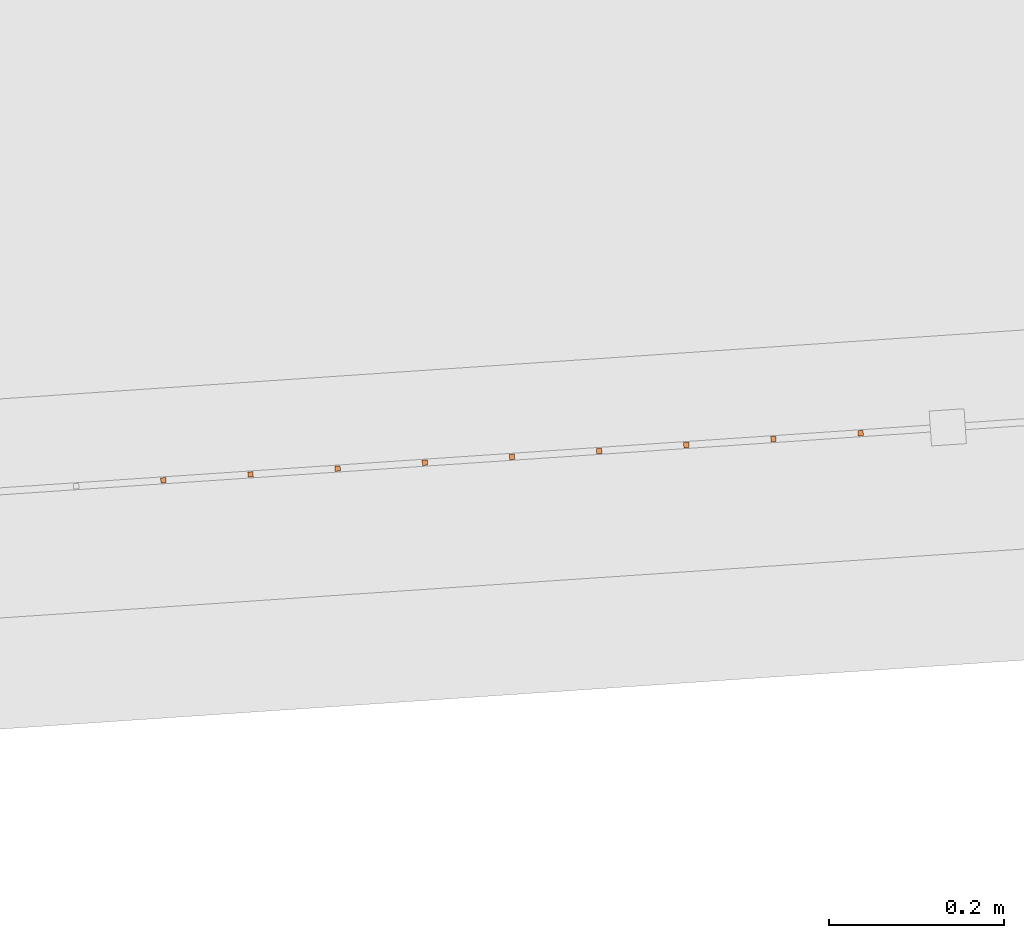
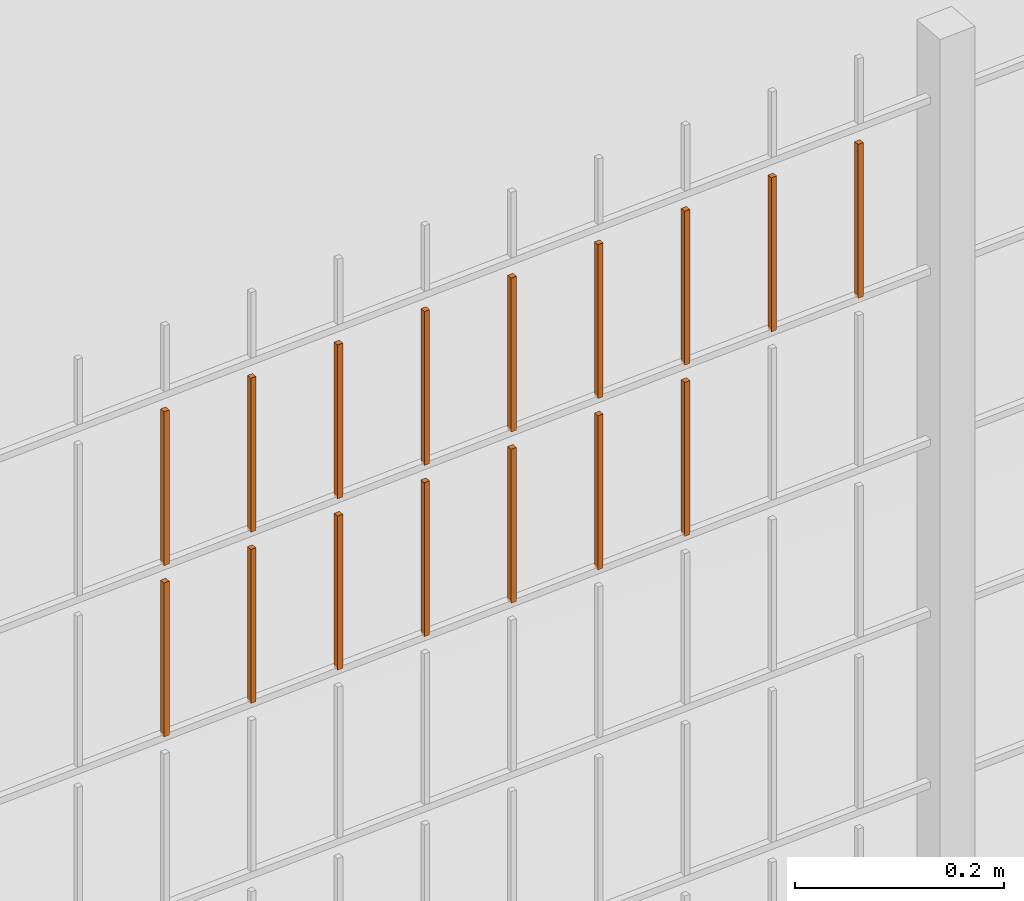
# One storey, part 336 of 1809: 16 proxies, 1 element without a shape of its own.
"""IFC2X3 building model written with IfcOpenShell, lengths in millimetres."""

from ifc_helpers import new_model, entity, si_unit, converted_unit, derived_unit, money_unit, direction, frame, origin_with_axes, place, context, subcontext, project, spatial, faceted_brep, source, transform, mapped, material, type_object, element, aggregate, save


model = new_model("IFC2X3")

# Units and contexts
model_context = context("Model", 3, precision=0.01, world=origin_with_axes(), true_north=direction((0.0, 1.0)))
body_context = subcontext(model_context, "Body", "Model", "MODEL_VIEW")
ifc_project = project(units=[si_unit("LENGTHUNIT", "METRE", prefix="MILLI"), si_unit("AREAUNIT", "SQUARE_METRE"), si_unit("VOLUMEUNIT", "CUBIC_METRE"), converted_unit("PLANEANGLEUNIT", "DEGREE", entity("IfcPlaneAngleMeasure", 0.0174532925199), si_unit("PLANEANGLEUNIT", "RADIAN"), dimensions=[0, 0, 0, 0, 0, 0, 0]), si_unit("SOLIDANGLEUNIT", "STERADIAN"), money_unit("EUR"), converted_unit("TIMEUNIT", "Year", entity("IfcTimeMeasure", 31556926.0), si_unit("TIMEUNIT", "SECOND"), dimensions=[0, 0, 1, 0, 0, 0, 0]), si_unit("MASSUNIT", "GRAM", prefix="KILO"), si_unit("THERMODYNAMICTEMPERATUREUNIT", "DEGREE_CELSIUS"), si_unit("LUMINOUSINTENSITYUNIT", "LUMEN"), si_unit("ENERGYUNIT", "JOULE", prefix="MEGA"), derived_unit("THERMALCONDUCTANCEUNIT", [(si_unit("POWERUNIT", "WATT"), 1), (si_unit("LENGTHUNIT", "METRE"), -1), (si_unit("THERMODYNAMICTEMPERATUREUNIT", "KELVIN"), -1)]), derived_unit("SPECIFICHEATCAPACITYUNIT", [(si_unit("ENERGYUNIT", "JOULE"), 1), (si_unit("MASSUNIT", "GRAM", prefix="KILO"), -1), (si_unit("THERMODYNAMICTEMPERATUREUNIT", "KELVIN"), -1)]), derived_unit("MASSDENSITYUNIT", [(si_unit("MASSUNIT", "GRAM", prefix="KILO"), 1), (si_unit("VOLUMEUNIT", "CUBIC_METRE"), -1)])], contexts=[model_context])

# Site, building, storey
site_placement = place(None, origin_with_axes())
site = spatial("IfcSite", under=ifc_project, at=site_placement, Name="Politse- ja Piirivalveameti ning Päästeameti ühishoone", CompositionType="ELEMENT")
building_placement = place(site_placement, origin_with_axes())
building = spatial("IfcBuilding", under=site, at=building_placement, Name="Politse- ja Piirivalveameti ning Päästeameti ühishoone", CompositionType="ELEMENT")
storey_placement = place(building_placement, origin_with_axes())
storey = spatial("IfcBuildingStorey", under=building, at=storey_placement, Name="Esimene korrus", CompositionType="ELEMENT", Elevation=0.0)

# Proxies
building_element_proxy_type_1 = type_object("IfcBuildingElementProxyType", Name="Railing Type", PredefinedType="NOTDEFINED")
proxy_1_placement = place(storey_placement, frame((89252.001212, -29183.4766571, 203.661247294), z_axis=(0.0, 0.0, 1.0), x_axis=(1.0, 0.0, 0.0)))
proxy_1 = element("IfcBuildingElementProxy", 1, at=proxy_1_placement, inside=storey, type_object=building_element_proxy_type_1, Name="PIIRDEAED")
ifc_material = material(Name="ET-03_Raud")
building_element_proxy_type_2 = type_object("IfcBuildingElementProxyType", Name="IfcBuildingElementProxy", PredefinedType="NOTDEFINED")
shared_shape_1 = source(origin_with_axes(), body_context, "Body", "Brep", [
    faceted_brep([(3.0, 3.0, -0.000752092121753), (-3.0, 3.0, -0.000752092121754), (-3.0, 3.0, 179.99926046), (3.0, 3.0, 179.99926046), (3.0, -3.0, 0.000752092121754), (-3.0, -3.0, 0.000752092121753), (-3.0, -3.0, 180.000764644), (3.0, -3.0, 180.000764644)], [[[0, 1, 2, 3]], [[0, 4, 5, 1]], [[1, 5, 6, 2]], [[3, 2, 6, 7]], [[4, 0, 3, 7]], [[5, 4, 7, 6]]]),
])
proxy_2_placement = place(proxy_1_placement, frame((-32652.2848338, -19503.3133769, 1619.02989078), z_axis=(0.0, 0.0, 1.0), x_axis=(1.0, 0.0, 0.0)))
proxy_2 = element("IfcBuildingElementProxy", 2, at=proxy_2_placement, type_object=building_element_proxy_type_2, material=ifc_material, Name="BALUSTER - 001", context=body_context, shape_type="MappedRepresentation", body=[
    mapped(shared_shape_1, transform((0.0, 0.0, 0.0), x_axis=(-0.0673926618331, 0.997726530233, 0.0), y_axis=(-0.997726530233, -0.0673926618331, 0.0), z_axis=(0.0, 0.0, 1.0))),
])
shared_shape_2 = source(origin_with_axes(), body_context, "Body", "Brep", [
    faceted_brep([(3.0, 3.0, -0.000752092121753), (-3.0, 3.0, -0.000752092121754), (-3.0, 3.0, 179.99926046), (3.0, 3.0, 179.99926046), (3.0, -3.0, 0.000752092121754), (-3.0, -3.0, 0.000752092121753), (-3.0, -3.0, 180.000764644), (3.0, -3.0, 180.000764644)], [[[0, 1, 2, 3]], [[0, 4, 5, 1]], [[1, 5, 6, 2]], [[3, 2, 6, 7]], [[4, 0, 3, 7]], [[5, 4, 7, 6]]]),
])
proxy_3_placement = place(proxy_1_placement, frame((-32652.2848338, -19503.3133769, 1819.02989078), z_axis=(0.0, 0.0, 1.0), x_axis=(1.0, 0.0, 0.0)))
proxy_3 = element("IfcBuildingElementProxy", 3, at=proxy_3_placement, type_object=building_element_proxy_type_2, material=ifc_material, Name="BALUSTER - 001", context=body_context, shape_type="MappedRepresentation", body=[
    mapped(shared_shape_2, transform((0.0, 0.0, 0.0), x_axis=(-0.0673926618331, 0.997726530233, 0.0), y_axis=(-0.997726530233, -0.0673926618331, 0.0), z_axis=(0.0, 0.0, 1.0))),
])
shared_shape_3 = source(origin_with_axes(), body_context, "Body", "Brep", [
    faceted_brep([(3.0, 3.0, -0.000752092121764), (-3.0, 3.0, -0.000752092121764), (-3.0, 3.0, 179.99926046), (3.0, 3.0, 179.99926046), (3.0, -3.0, 0.000752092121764), (-3.0, -3.0, 0.000752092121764), (-3.0, -3.0, 180.000764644), (3.0, -3.0, 180.000764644)], [[[0, 1, 2, 3]], [[0, 4, 5, 1]], [[1, 5, 6, 2]], [[3, 2, 6, 7]], [[4, 0, 3, 7]], [[5, 4, 7, 6]]]),
])
proxy_4_placement = place(proxy_1_placement, frame((-33051.3754459, -19530.2704416, 1618.92961183), z_axis=(0.0, 0.0, 1.0), x_axis=(1.0, 0.0, 0.0)))
proxy_4 = element("IfcBuildingElementProxy", 4, at=proxy_4_placement, type_object=building_element_proxy_type_2, material=ifc_material, Name="BALUSTER - 001", context=body_context, shape_type="MappedRepresentation", body=[
    mapped(shared_shape_3, transform((0.0, 0.0, 0.0), x_axis=(-0.0673926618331, 0.997726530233, 0.0), y_axis=(-0.997726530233, -0.0673926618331, 0.0), z_axis=(0.0, 0.0, 1.0))),
])
shared_shape_4 = source(origin_with_axes(), body_context, "Body", "Brep", [
    faceted_brep([(3.0, 3.0, -0.000752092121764), (-3.0, 3.0, -0.000752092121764), (-3.0, 3.0, 179.99926046), (3.0, 3.0, 179.99926046), (3.0, -3.0, 0.000752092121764), (-3.0, -3.0, 0.000752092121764), (-3.0, -3.0, 180.000764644), (3.0, -3.0, 180.000764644)], [[[0, 1, 2, 3]], [[0, 4, 5, 1]], [[1, 5, 6, 2]], [[3, 2, 6, 7]], [[4, 0, 3, 7]], [[5, 4, 7, 6]]]),
])
proxy_5_placement = place(proxy_1_placement, frame((-33051.3754459, -19530.2704416, 1818.92961183), z_axis=(0.0, 0.0, 1.0), x_axis=(1.0, 0.0, 0.0)))
proxy_5 = element("IfcBuildingElementProxy", 5, at=proxy_5_placement, type_object=building_element_proxy_type_2, material=ifc_material, Name="BALUSTER - 001", context=body_context, shape_type="MappedRepresentation", body=[
    mapped(shared_shape_4, transform((0.0, 0.0, 0.0), x_axis=(-0.0673926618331, 0.997726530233, 0.0), y_axis=(-0.997726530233, -0.0673926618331, 0.0), z_axis=(0.0, 0.0, 1.0))),
])
shared_shape_5 = source(origin_with_axes(), body_context, "Body", "Brep", [
    faceted_brep([(3.0, 3.0, -0.000752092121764), (-3.0, 3.0, -0.000752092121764), (-3.0, 3.0, 179.99926046), (3.0, 3.0, 179.99926046), (3.0, -3.0, 0.000752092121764), (-3.0, -3.0, 0.000752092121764), (-3.0, -3.0, 180.000764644), (3.0, -3.0, 180.000764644)], [[[0, 1, 2, 3]], [[0, 4, 5, 1]], [[1, 5, 6, 2]], [[3, 2, 6, 7]], [[4, 0, 3, 7]], [[5, 4, 7, 6]]]),
])
proxy_6_placement = place(proxy_1_placement, frame((-32552.5121808, -19496.5741107, 1819.05496052), z_axis=(0.0, 0.0, 1.0), x_axis=(1.0, 0.0, 0.0)))
proxy_6 = element("IfcBuildingElementProxy", 6, at=proxy_6_placement, type_object=building_element_proxy_type_2, material=ifc_material, Name="BALUSTER - 001", context=body_context, shape_type="MappedRepresentation", body=[
    mapped(shared_shape_5, transform((0.0, 0.0, 0.0), x_axis=(-0.0673926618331, 0.997726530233, 0.0), y_axis=(-0.997726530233, -0.0673926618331, 0.0), z_axis=(0.0, 0.0, 1.0))),
])
proxy_7_placement = place(proxy_1_placement, frame((-33151.1480989, -19537.0097078, 1818.90454209), z_axis=(0.0, 0.0, 1.0), x_axis=(1.0, 0.0, 0.0)))
proxy_7 = element("IfcBuildingElementProxy", 7, at=proxy_7_placement, type_object=building_element_proxy_type_2, material=ifc_material, Name="BALUSTER - 001", context=body_context, shape_type="MappedRepresentation", body=[
    mapped(shared_shape_5, transform((0.0, 0.0, 0.0), x_axis=(-0.0673926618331, 0.997726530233, 0.0), y_axis=(-0.997726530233, -0.0673926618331, 0.0), z_axis=(0.0, 0.0, 1.0))),
])
shared_shape_6 = source(origin_with_axes(), body_context, "Body", "Brep", [
    faceted_brep([(3.0, 3.0, -0.000752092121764), (-3.0, 3.0, -0.000752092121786), (-3.0, 3.0, 179.99926046), (3.0, 3.0, 179.99926046), (3.0, -3.0, 0.000752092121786), (-3.0, -3.0, 0.000752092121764), (-3.0, -3.0, 180.000764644), (3.0, -3.0, 180.000764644)], [[[0, 1, 2, 3]], [[0, 4, 5, 1]], [[1, 5, 6, 2]], [[3, 2, 6, 7]], [[4, 0, 3, 7]], [[5, 4, 7, 6]]]),
])
proxy_8_placement = place(proxy_1_placement, frame((-32951.6027929, -19523.5311754, 1818.95468157), z_axis=(0.0, 0.0, 1.0), x_axis=(1.0, 0.0, 0.0)))
proxy_8 = element("IfcBuildingElementProxy", 8, at=proxy_8_placement, type_object=building_element_proxy_type_2, material=ifc_material, Name="BALUSTER - 001", context=body_context, shape_type="MappedRepresentation", body=[
    mapped(shared_shape_6, transform((0.0, 0.0, 0.0), x_axis=(-0.0673926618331, 0.997726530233, 0.0), y_axis=(-0.997726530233, -0.0673926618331, 0.0), z_axis=(0.0, 0.0, 1.0))),
])
shared_shape_7 = source(origin_with_axes(), body_context, "Body", "Brep", [
    faceted_brep([(3.0, 3.0, -0.000752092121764), (-3.0, 3.0, -0.000752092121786), (-3.0, 3.0, 179.99926046), (3.0, 3.0, 179.99926046), (3.0, -3.0, 0.000752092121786), (-3.0, -3.0, 0.000752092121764), (-3.0, -3.0, 180.000764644), (3.0, -3.0, 180.000764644)], [[[0, 1, 2, 3]], [[0, 4, 5, 1]], [[1, 5, 6, 2]], [[3, 2, 6, 7]], [[4, 0, 3, 7]], [[5, 4, 7, 6]]]),
])
proxy_9_placement = place(proxy_1_placement, frame((-32951.6027929, -19523.5311754, 1618.95468157), z_axis=(0.0, 0.0, 1.0), x_axis=(1.0, 0.0, 0.0)))
proxy_9 = element("IfcBuildingElementProxy", 9, at=proxy_9_placement, type_object=building_element_proxy_type_2, material=ifc_material, Name="BALUSTER - 001", context=body_context, shape_type="MappedRepresentation", body=[
    mapped(shared_shape_7, transform((0.0, 0.0, 0.0), x_axis=(-0.0673926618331, 0.997726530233, 0.0), y_axis=(-0.997726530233, -0.0673926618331, 0.0), z_axis=(0.0, 0.0, 1.0))),
])
shared_shape_8 = source(origin_with_axes(), body_context, "Body", "Brep", [
    faceted_brep([(3.0, 3.0, -0.000752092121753), (-3.0, 3.0, -0.000752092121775), (-3.0, 3.0, 179.99926046), (3.0, 3.0, 179.99926046), (3.0, -3.0, 0.000752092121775), (-3.0, -3.0, 0.000752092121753), (-3.0, -3.0, 180.000764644), (3.0, -3.0, 180.000764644)], [[[0, 1, 2, 3]], [[0, 4, 5, 1]], [[1, 5, 6, 2]], [[3, 2, 6, 7]], [[4, 0, 3, 7]], [[5, 4, 7, 6]]]),
])
proxy_10_placement = place(proxy_1_placement, frame((-32752.0574868, -19510.052643, 1819.00482104), z_axis=(0.0, 0.0, 1.0), x_axis=(1.0, 0.0, 0.0)))
proxy_10 = element("IfcBuildingElementProxy", 10, at=proxy_10_placement, type_object=building_element_proxy_type_2, material=ifc_material, Name="BALUSTER - 001", context=body_context, shape_type="MappedRepresentation", body=[
    mapped(shared_shape_8, transform((0.0, 0.0, 0.0), x_axis=(-0.0673926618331, 0.997726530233, 0.0), y_axis=(-0.997726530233, -0.0673926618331, 0.0), z_axis=(0.0, 0.0, 1.0))),
])
shared_shape_9 = source(origin_with_axes(), body_context, "Body", "Brep", [
    faceted_brep([(3.0, 3.0, -0.000752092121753), (-3.0, 3.0, -0.000752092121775), (-3.0, 3.0, 179.99926046), (3.0, 3.0, 179.99926046), (3.0, -3.0, 0.000752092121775), (-3.0, -3.0, 0.000752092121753), (-3.0, -3.0, 180.000764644), (3.0, -3.0, 180.000764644)], [[[0, 1, 2, 3]], [[0, 4, 5, 1]], [[1, 5, 6, 2]], [[3, 2, 6, 7]], [[4, 0, 3, 7]], [[5, 4, 7, 6]]]),
])
proxy_11_placement = place(proxy_1_placement, frame((-32851.8301399, -19516.7919092, 1618.9797513), z_axis=(0.0, 0.0, 1.0), x_axis=(1.0, 0.0, 0.0)))
proxy_11 = element("IfcBuildingElementProxy", 11, at=proxy_11_placement, type_object=building_element_proxy_type_2, material=ifc_material, Name="BALUSTER - 001", context=body_context, shape_type="MappedRepresentation", body=[
    mapped(shared_shape_9, transform((0.0, 0.0, 0.0), x_axis=(-0.0673926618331, 0.997726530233, 0.0), y_axis=(-0.997726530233, -0.0673926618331, 0.0), z_axis=(0.0, 0.0, 1.0))),
])
shared_shape_10 = source(origin_with_axes(), body_context, "Body", "Brep", [
    faceted_brep([(3.0, 3.0, -0.000752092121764), (-3.0, 3.0, -0.000752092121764), (-3.0, 3.0, 179.99926046), (3.0, 3.0, 179.99926046), (3.0, -3.0, 0.000752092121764), (-3.0, -3.0, 0.000752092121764), (-3.0, -3.0, 180.000764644), (3.0, -3.0, 180.000764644)], [[[0, 1, 2, 3]], [[0, 4, 5, 1]], [[1, 5, 6, 2]], [[3, 2, 6, 7]], [[4, 0, 3, 7]], [[5, 4, 7, 6]]]),
])
proxy_12_placement = place(proxy_1_placement, frame((-33151.1480989, -19537.0097078, 1618.90454209), z_axis=(0.0, 0.0, 1.0), x_axis=(1.0, 0.0, 0.0)))
proxy_12 = element("IfcBuildingElementProxy", 12, at=proxy_12_placement, type_object=building_element_proxy_type_2, material=ifc_material, Name="BALUSTER - 001", context=body_context, shape_type="MappedRepresentation", body=[
    mapped(shared_shape_10, transform((0.0, 0.0, 0.0), x_axis=(-0.0673926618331, 0.997726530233, 0.0), y_axis=(-0.997726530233, -0.0673926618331, 0.0), z_axis=(0.0, 0.0, 1.0))),
])
shared_shape_11 = source(origin_with_axes(), body_context, "Body", "Brep", [
    faceted_brep([(3.0, 3.0, -0.000752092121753), (-3.0, 3.0, -0.000752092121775), (-3.0, 3.0, 179.99926046), (3.0, 3.0, 179.99926046), (3.0, -3.0, 0.000752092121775), (-3.0, -3.0, 0.000752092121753), (-3.0, -3.0, 180.000764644), (3.0, -3.0, 180.000764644)], [[[0, 1, 2, 3]], [[0, 4, 5, 1]], [[1, 5, 6, 2]], [[3, 2, 6, 7]], [[4, 0, 3, 7]], [[5, 4, 7, 6]]]),
])
proxy_13_placement = place(proxy_1_placement, frame((-32752.0574868, -19510.052643, 1619.00482104), z_axis=(0.0, 0.0, 1.0), x_axis=(1.0, 0.0, 0.0)))
proxy_13 = element("IfcBuildingElementProxy", 13, at=proxy_13_placement, type_object=building_element_proxy_type_2, material=ifc_material, Name="BALUSTER - 001", context=body_context, shape_type="MappedRepresentation", body=[
    mapped(shared_shape_11, transform((0.0, 0.0, 0.0), x_axis=(-0.0673926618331, 0.997726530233, 0.0), y_axis=(-0.997726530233, -0.0673926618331, 0.0), z_axis=(0.0, 0.0, 1.0))),
])
shared_shape_12 = source(origin_with_axes(), body_context, "Body", "Brep", [
    faceted_brep([(3.0, 3.0, -0.000752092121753), (-3.0, 3.0, -0.000752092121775), (-3.0, 3.0, 179.99926046), (3.0, 3.0, 179.99926046), (3.0, -3.0, 0.000752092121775), (-3.0, -3.0, 0.000752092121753), (-3.0, -3.0, 180.000764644), (3.0, -3.0, 180.000764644)], [[[0, 1, 2, 3]], [[0, 4, 5, 1]], [[1, 5, 6, 2]], [[3, 2, 6, 7]], [[4, 0, 3, 7]], [[5, 4, 7, 6]]]),
])
proxy_14_placement = place(proxy_1_placement, frame((-32851.8301399, -19516.7919092, 1818.9797513), z_axis=(0.0, 0.0, 1.0), x_axis=(1.0, 0.0, 0.0)))
proxy_14 = element("IfcBuildingElementProxy", 14, at=proxy_14_placement, type_object=building_element_proxy_type_2, material=ifc_material, Name="BALUSTER - 001", context=body_context, shape_type="MappedRepresentation", body=[
    mapped(shared_shape_12, transform((0.0, 0.0, 0.0), x_axis=(-0.0673926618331, 0.997726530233, 0.0), y_axis=(-0.997726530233, -0.0673926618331, 0.0), z_axis=(0.0, 0.0, 1.0))),
])
shared_shape_13 = source(origin_with_axes(), body_context, "Body", "Brep", [
    faceted_brep([(3.0, 3.0, -0.000752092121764), (-3.0, 3.0, -0.000752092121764), (-3.0, 3.0, 179.99926046), (3.0, 3.0, 179.99926046), (3.0, -3.0, 0.000752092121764), (-3.0, -3.0, 0.000752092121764), (-3.0, -3.0, 180.000764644), (3.0, -3.0, 180.000764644)], [[[0, 1, 2, 3]], [[0, 4, 5, 1]], [[1, 5, 6, 2]], [[3, 2, 6, 7]], [[4, 0, 3, 7]], [[5, 4, 7, 6]]]),
])
proxy_15_placement = place(proxy_1_placement, frame((-32352.9668747, -19483.0955783, 1819.10509999), z_axis=(0.0, 0.0, 1.0), x_axis=(1.0, 0.0, 0.0)))
proxy_15 = element("IfcBuildingElementProxy", 15, at=proxy_15_placement, type_object=building_element_proxy_type_2, material=ifc_material, Name="BALUSTER - 001", context=body_context, shape_type="MappedRepresentation", body=[
    mapped(shared_shape_13, transform((0.0, 0.0, 0.0), x_axis=(-0.0673926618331, 0.997726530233, 0.0), y_axis=(-0.997726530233, -0.0673926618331, 0.0), z_axis=(0.0, 0.0, 1.0))),
])
shared_shape_14 = source(origin_with_axes(), body_context, "Body", "Brep", [
    faceted_brep([(3.0, 3.0, -0.000752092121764), (-3.0, 3.0, -0.000752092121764), (-3.0, 3.0, 179.99926046), (3.0, 3.0, 179.99926046), (3.0, -3.0, 0.000752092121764), (-3.0, -3.0, 0.000752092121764), (-3.0, -3.0, 180.000764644), (3.0, -3.0, 180.000764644)], [[[0, 1, 2, 3]], [[0, 4, 5, 1]], [[1, 5, 6, 2]], [[3, 2, 6, 7]], [[4, 0, 3, 7]], [[5, 4, 7, 6]]]),
])
proxy_16_placement = place(proxy_1_placement, frame((-32552.5121808, -19496.5741107, 1619.05496052), z_axis=(0.0, 0.0, 1.0), x_axis=(1.0, 0.0, 0.0)))
proxy_16 = element("IfcBuildingElementProxy", 16, at=proxy_16_placement, type_object=building_element_proxy_type_2, material=ifc_material, Name="BALUSTER - 001", context=body_context, shape_type="MappedRepresentation", body=[
    mapped(shared_shape_14, transform((0.0, 0.0, 0.0), x_axis=(-0.0673926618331, 0.997726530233, 0.0), y_axis=(-0.997726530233, -0.0673926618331, 0.0), z_axis=(0.0, 0.0, 1.0))),
])
shared_shape_15 = source(origin_with_axes(), body_context, "Body", "Brep", [
    faceted_brep([(3.0, 3.0, -0.000752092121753), (-3.0, 3.0, -0.000752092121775), (-3.0, 3.0, 179.99926046), (3.0, 3.0, 179.99926046), (3.0, -3.0, 0.000752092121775), (-3.0, -3.0, 0.000752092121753), (-3.0, -3.0, 180.000764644), (3.0, -3.0, 180.000764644)], [[[0, 1, 2, 3]], [[0, 4, 5, 1]], [[1, 5, 6, 2]], [[3, 2, 6, 7]], [[4, 0, 3, 7]], [[5, 4, 7, 6]]]),
])
proxy_17_placement = place(proxy_1_placement, frame((-32452.7395278, -19489.8348445, 1819.08003025), z_axis=(0.0, 0.0, 1.0), x_axis=(1.0, 0.0, 0.0)))
proxy_17 = element("IfcBuildingElementProxy", 17, at=proxy_17_placement, type_object=building_element_proxy_type_2, material=ifc_material, Name="BALUSTER - 001", context=body_context, shape_type="MappedRepresentation", body=[
    mapped(shared_shape_15, transform((0.0, 0.0, 0.0), x_axis=(-0.0673926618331, 0.997726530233, 0.0), y_axis=(-0.997726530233, -0.0673926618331, 0.0), z_axis=(0.0, 0.0, 1.0))),
])
aggregate(proxy_1, [proxy_16, proxy_2, proxy_13, proxy_11, proxy_9, proxy_4, proxy_12, proxy_15, proxy_17, proxy_6, proxy_3, proxy_10, proxy_14, proxy_8, proxy_5, proxy_7])

save(model, "model.ifc")
